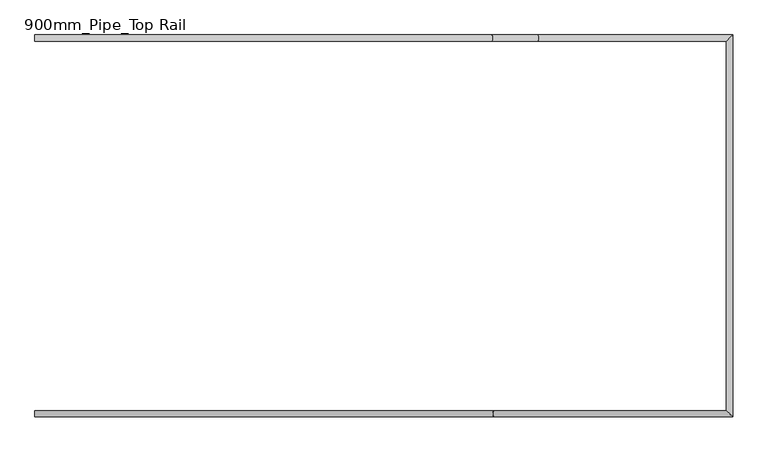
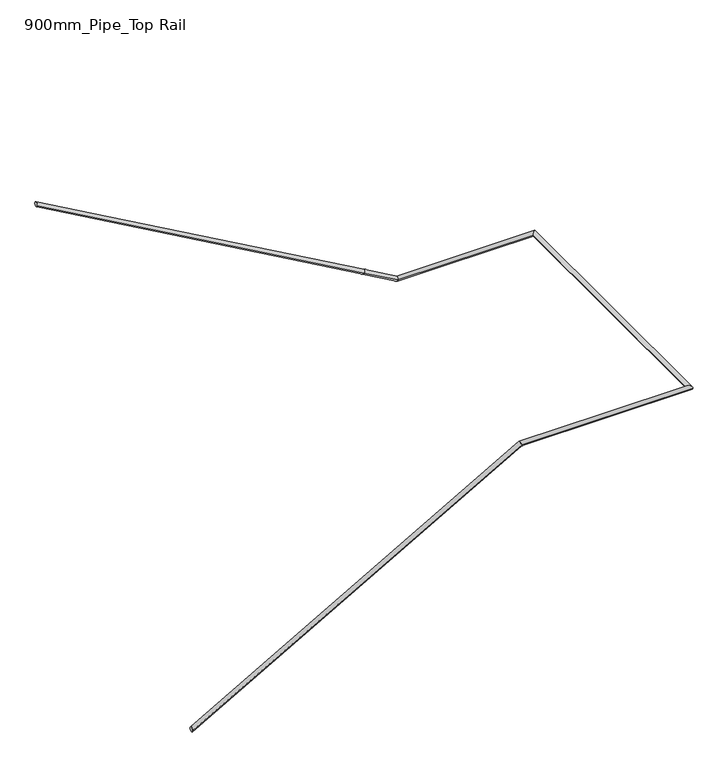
"""IFC4 building model written with IfcOpenShell, lengths in millimetres: railing geometry, 900mm_Pipe_Top Rail."""

import ifcopenshell
import ifcopenshell.guid

model = None  # the IFC model being written
_history = None  # IfcOwnerHistory: only IFC2X3 demands one
_inside = {}  # id of a spatial element -> (the spatial element, [elements in it])
_under = {}  # id of a project, library or spatial element -> (it, [spatial elements below it])
_declared = {}  # id of a project -> (the project, [libraries it declares])
_typed = {}  # id of a type object -> (the type object, [elements of that type])
_made_of = {}  # id of a material, layer set ... -> (it, [elements and type objects made of it])


def new_model(schema):
    """Start an empty IFC model of exactly this schema.

    Asked for "IFC4X3", IfcOpenShell would pick the latest addendum, in which some entities
    have other attributes; the version numbers below select the first issue.
    IFC2X3 requires an IfcOwnerHistory on every rooted entity: one is made here for all.
    """
    global model, _history
    if schema == "IFC4X3":
        model = ifcopenshell.file(schema_version=(4, 3, 0, 0))
    else:
        model = ifcopenshell.file(schema=schema)
    _inside.clear()
    _under.clear()
    _declared.clear()
    _typed.clear()
    _made_of.clear()
    _history = None
    if model.schema == "IFC2X3":
        org = make("IfcOrganization", Name="unknown")
        user = make(
            "IfcPersonAndOrganization",
            ThePerson=make("IfcPerson", FamilyName="unknown"),
            TheOrganization=org,
        )
        app = make(
            "IfcApplication",
            ApplicationDeveloper=org,
            Version="unknown",
            ApplicationFullName="unknown",
            ApplicationIdentifier="unknown",
        )
        _history = make(
            "IfcOwnerHistory",
            OwningUser=user,
            OwningApplication=app,
            ChangeAction="ADDED",
            CreationDate=0,
        )
    return model


def make(cls, **values):
    """One entity of the class cls with the attributes given. An attribute that is None is left unset."""
    return model.create_entity(
        cls, **{name: value for name, value in values.items() if value is not None}
    )


def rooted(cls, **values):
    """An entity with a GlobalId (a new one), such as an element, a storey or a relation."""
    return make(cls, GlobalId=ifcopenshell.guid.new(), OwnerHistory=_history, **values)


def si_unit(unit_type, name, prefix=None):
    """IfcSIUnit, for example si_unit("LENGTHUNIT", "METRE", prefix="MILLI")."""
    return make("IfcSIUnit", UnitType=unit_type, Prefix=prefix, Name=name)


def assignment(units):
    """IfcUnitAssignment: the units of a project."""
    return None if units is None else make("IfcUnitAssignment", Units=units)


def point(xyz):
    """IfcCartesianPoint."""
    return None if xyz is None else make("IfcCartesianPoint", Coordinates=xyz)


def direction(xyz):
    """IfcDirection."""
    return None if xyz is None else make("IfcDirection", DirectionRatios=xyz)


def frame(location, z_axis=None, x_axis=None):
    """IfcAxis2Placement3D, a coordinate frame: its origin and axes. An axis left out is left unset."""
    return make(
        "IfcAxis2Placement3D",
        Location=point(location),
        Axis=direction(z_axis),
        RefDirection=direction(x_axis),
    )


def origin():
    """The frame at (0, 0, 0) with its axes left unset."""
    return frame((0.0, 0.0, 0.0))


def place(relative_to, where):
    """IfcLocalPlacement: puts the frame where relative to a parent placement (None: the world)."""
    return make(
        "IfcLocalPlacement", PlacementRelTo=relative_to, RelativePlacement=where
    )


def context(
    kind, dimensions, precision=None, world=None, true_north=None, identifier=None
):
    """IfcGeometricRepresentationContext, for example the 3D "Model" context."""
    return make(
        "IfcGeometricRepresentationContext",
        ContextIdentifier=identifier,
        ContextType=kind,
        CoordinateSpaceDimension=dimensions,
        Precision=precision,
        WorldCoordinateSystem=world,
        TrueNorth=true_north,
    )


def project(units=None, contexts=None):
    """IfcProject with its units and contexts."""
    return rooted(
        "IfcProject",
        Name="project",
        RepresentationContexts=contexts,
        UnitsInContext=assignment(units),
    )


def spatial(cls, under=None, at=None, **own):
    """A site, building, storey or space (cls), placed at a placement, below another one or the project."""
    s = rooted(cls, ObjectPlacement=at, **own)
    if under is not None:
        _under.setdefault(under.id(), (under, []))[1].append(s)
    return s


def circle_curve(where, radius):
    """IfcCircle in the frame where."""
    return make("IfcCircle", Position=where, Radius=radius)


def ellipse_curve(where, semi_axis1, semi_axis2):
    """IfcEllipse in the frame where."""
    return make(
        "IfcEllipse", Position=where, SemiAxis1=semi_axis1, SemiAxis2=semi_axis2
    )


def shape(context_of_items, identifier, shape_type, items):
    """IfcShapeRepresentation: the items that make up one representation, for example the "Body"."""
    return make(
        "IfcShapeRepresentation",
        ContextOfItems=context_of_items,
        RepresentationIdentifier=identifier,
        RepresentationType=shape_type,
        Items=items,
    )


def source(mapping_origin, context_of_items, identifier, shape_type, items):
    """IfcRepresentationMap: a shape defined once, which mapped items show again and again."""
    return make(
        "IfcRepresentationMap",
        MappingOrigin=mapping_origin,
        MappedRepresentation=shape(context_of_items, identifier, shape_type, items),
    )


def transform(
    local_origin,
    x_axis=None,
    y_axis=None,
    z_axis=None,
    scale=None,
    scale2=None,
    scale3=None,
    uniform=True,
):
    """IfcCartesianTransformationOperator3D, or its non-uniform kind. x_axis, y_axis, z_axis: its Axis1, 2, 3."""
    if uniform:
        return make(
            "IfcCartesianTransformationOperator3D",
            Axis1=direction(x_axis),
            Axis2=direction(y_axis),
            LocalOrigin=point(local_origin),
            Scale=scale,
            Axis3=direction(z_axis),
        )
    return make(
        "IfcCartesianTransformationOperator3DnonUniform",
        Axis1=direction(x_axis),
        Axis2=direction(y_axis),
        LocalOrigin=point(local_origin),
        Scale=scale,
        Axis3=direction(z_axis),
        Scale2=scale2,
        Scale3=scale3,
    )


def mapped(mapping_source, mapping_target):
    """IfcMappedItem: shows the shape of a source again, moved by a transform."""
    return make(
        "IfcMappedItem", MappingSource=mapping_source, MappingTarget=mapping_target
    )


def made_of(thing, what):
    """Note that an element or type object is made of a material, layer set ...; save() writes the relation."""
    if what is not None:
        _made_of.setdefault(what.id(), (what, []))[1].append(thing)
    return thing


def element(
    cls,
    number,
    at=None,
    inside=None,
    cuts=None,
    type_object=None,
    material=None,
    context=None,
    identifier="Body",
    shape_type=None,
    held_by="IfcProductDefinitionShape",
    body=None,
    shapes=None,
    **own,
):
    """One element of the class cls, such as IfcWall. Its Tag is "e" and its number.

    at: its placement. inside: the storey or other place that contains it. cuts: it is an
    opening in that element (IfcRelVoidsElement). A single representation is given by context,
    identifier, shape_type and body (its items); several are given by shapes. held_by: the class
    of the entity that holds the representations. save() writes the other relations.
    """
    e = rooted(cls, Tag="e%d" % number, ObjectPlacement=at, **own)
    if body is not None:
        shapes = [shape(context, identifier, shape_type, body)]
    if shapes is not None:
        e.Representation = make(held_by, Representations=shapes)
    if inside is not None:
        _inside.setdefault(inside.id(), (inside, []))[1].append(e)
    if cuts is not None:
        rooted(
            "IfcRelVoidsElement", RelatingBuildingElement=cuts, RelatedOpeningElement=e
        )
    if type_object is not None:
        _typed.setdefault(type_object.id(), (type_object, []))[1].append(e)
    return made_of(e, material)


def aggregate(whole, parts):
    """IfcRelAggregates: a whole, such as a stair, and the parts it consists of."""
    return rooted("IfcRelAggregates", RelatingObject=whole, RelatedObjects=parts)


def save(model, path):
    """Write the relations noted so far, then the file.

    IfcRelAggregates (storeys below a building ...), IfcRelContainedInSpatialStructure (elements
    in a storey), IfcRelDefinesByType, IfcRelAssociatesMaterial and IfcRelDeclares: one each for
    every whole, place, type object, material and project.
    """
    for whole, parts in _under.values():
        aggregate(whole, parts)
    for where, things in _inside.values():
        rooted(
            "IfcRelContainedInSpatialStructure",
            RelatedElements=things,
            RelatingStructure=where,
        )
    for kind, things in _typed.values():
        rooted("IfcRelDefinesByType", RelatedObjects=things, RelatingType=kind)
    for what, things in _made_of.values():
        rooted("IfcRelAssociatesMaterial", RelatedObjects=things, RelatingMaterial=what)
    for by, libraries in _declared.values():
        rooted("IfcRelDeclares", RelatingContext=by, RelatedDefinitions=libraries)
    model.write(path)


def plane_surface(at):
    """IfcPlane: the flat surface through the origin of the frame at, square to its z axis."""
    return make("IfcPlane", Position=at)


def cylinder_surface(at, radius):
    """IfcCylindricalSurface: all points at the distance radius from the z axis of the frame at."""
    return make("IfcCylindricalSurface", Position=at, Radius=radius)


def advanced_brep(points, edges, surfaces, faces):
    """IfcAdvancedBrep: a solid bounded by faces that lie on surfaces and meet in shared edges.

    An edge is (start, end): straight between two places in points (the first is 0);
    or (start, end, curve); or (start, end, curve, False) where it runs against its curve.
    A face is (place in surfaces, loops), or (place, loops, False) where it looks against
    its surface's normal. A loop lists edges by number (the first is 1), with a minus sign
    where the edge is run from its end to its start. The first loop is the outer one.
    """
    corners = [point(p) for p in points]
    vertices = [make("IfcVertexPoint", VertexGeometry=c) for c in corners]
    made = []
    for start, end, *more in edges:
        made.append(
            make(
                "IfcEdgeCurve",
                EdgeStart=vertices[start],
                EdgeEnd=vertices[end],
                EdgeGeometry=more[0] if more else make("IfcPolyline", Points=[corners[start], corners[end]]),
                SameSense=more[1] if len(more) > 1 else True,
            )
        )
    hull = []
    for where, loops, *sense in faces:
        bounds = []
        for j, loop in enumerate(loops):
            ring = [make("IfcOrientedEdge", EdgeElement=made[abs(k) - 1], Orientation=k > 0) for k in loop]
            bounds.append(
                make(
                    "IfcFaceOuterBound" if j == 0 else "IfcFaceBound",
                    Bound=make("IfcEdgeLoop", EdgeList=ring),
                    Orientation=True,
                )
            )
        hull.append(make("IfcAdvancedFace", Bounds=bounds, FaceSurface=surfaces[where], SameSense=sense[0] if sense else True))
    return make("IfcAdvancedBrep", Outer=make("IfcClosedShell", CfsFaces=hull))


def railing_900mm_pipe_top_rail_28c3baa7(model_context):
    return source(origin(), model_context, "Body", "AdvancedBrep", [
        advanced_brep(
        [(-801.4958562, -4563.9473686, 12307.451671), (-801.4958562, -4523.9473686, 12307.451671), (2203.7892028, -4563.9473686, 14015.0), (2203.7892028, -4523.9473686, 14015.0), (3768.1041438, -4563.9473686, 14015.0), (3728.1041438, -4523.9473686, 14015.0), (3768.1041438, -2065.2316761, 14015.0), (3728.1041438, -2105.2316761, 14015.0), (2493.2190848, -2065.2316761, 14015.0), (2493.2190848, -2105.2316761, 14015.0), (2188.6239556, -2065.2316761, 14188.0654143), (2188.6239556, -2105.2316761, 14188.0654143), (-801.4958562, -2065.2316761, 15886.9971256), (-801.4958562, -2105.2316761, 15886.9971256)],
        [
            (0, 1, ellipse_curve(frame((-801.4958562, -4543.9473686, 12307.451671), z_axis=(-1.0, 0.0, 0.0), x_axis=(0.0, 0.0, -1.0)), 23.0028744, 20.0)),
            (1, 0, ellipse_curve(frame((-801.4958562, -4543.9473686, 12307.451671), z_axis=(-1.0, 0.0, 0.0), x_axis=(0.0, 0.0, -1.0)), 23.0028744, 20.0)),
            (0, 2),
            (2, 3, ellipse_curve(frame((2203.7892028, -4543.9473686, 14015.0), z_axis=(-0.9668134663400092, 0.0, -0.25548330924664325), x_axis=(0.2554833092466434, 0.0, -0.9668134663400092)), 20.6865137, 20.0)),
            (3, 1),
            (3, 2, ellipse_curve(frame((2203.7892028, -4543.9473686, 14015.0), z_axis=(-0.9668134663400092, 0.0, -0.25548330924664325), x_axis=(0.2554833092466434, 0.0, -0.9668134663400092)), 20.6865137, 20.0)),
            (2, 4),
            (4, 5, ellipse_curve(frame((3748.1041438, -4543.9473686, 14015.0), z_axis=(-0.7071067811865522, -0.7071067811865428, 0.0), x_axis=(-0.7071067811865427, 0.7071067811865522, 0.0)), 28.2842712, 20.0)),
            (5, 3),
            (5, 4, ellipse_curve(frame((3748.1041438, -4543.9473686, 14015.0), z_axis=(-0.7071067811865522, -0.7071067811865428, 0.0), x_axis=(-0.7071067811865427, 0.7071067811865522, 0.0)), 28.2842712, 20.0)),
            (4, 6),
            (6, 7, ellipse_curve(frame((3748.1041438, -2085.2316761, 14015.0), z_axis=(0.7071067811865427, -0.7071067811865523, 0.0), x_axis=(-0.7071067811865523, -0.7071067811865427, 0.0)), 28.2842712, 20.0)),
            (7, 5),
            (7, 6, ellipse_curve(frame((3748.1041438, -2085.2316761, 14015.0), z_axis=(0.7071067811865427, -0.7071067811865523, 0.0), x_axis=(-0.7071067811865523, -0.7071067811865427, 0.0)), 28.2842712, 20.0)),
            (6, 8),
            (8, 9, ellipse_curve(frame((2493.2190848, -2085.2316761, 14015.0), z_axis=(0.9668134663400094, 0.0, -0.25548330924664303), x_axis=(0.2554833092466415, 0.0, 0.9668134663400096)), 20.6865137, 20.0)),
            (9, 7),
            (9, 8, ellipse_curve(frame((2493.2190848, -2085.2316761, 14015.0), z_axis=(0.9668134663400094, 0.0, -0.25548330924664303), x_axis=(0.2554833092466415, 0.0, 0.9668134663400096)), 20.6865137, 20.0)),
            (8, 10),
            (10, 11, circle_curve(frame((2188.6239556, -2085.2316761, 14188.0654143), z_axis=(0.8694565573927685, 0.0, -0.4940094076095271), x_axis=(0.0, -1.0, 0.0)), 20.0)),
            (11, 9),
            (11, 10, circle_curve(frame((2188.6239556, -2085.2316761, 14188.0654143), z_axis=(0.8694565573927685, 0.0, -0.4940094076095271), x_axis=(0.0, -1.0, 0.0)), 20.0)),
            (12, 13, ellipse_curve(frame((-801.4958562, -2085.2316761, 15886.9971256), z_axis=(-1.0, 0.0, 0.0), x_axis=(0.0, 0.0, -1.0)), 23.0028744, 20.0)),
            (13, 12, ellipse_curve(frame((-801.4958562, -2085.2316761, 15886.9971256), z_axis=(-1.0, 0.0, 0.0), x_axis=(0.0, 0.0, -1.0)), 23.0028744, 20.0)),
            (10, 12),
            (13, 11),
        ],
        [
            plane_surface(frame((-801.4958562, -4543.9473686, 12330.4545455), z_axis=(-1.0, 0.0, 0.0), x_axis=(0.0, 1.0, 0.0))),
            cylinder_surface(frame((-791.6156681, -4543.9473686, 12313.0654143), z_axis=(-0.8694565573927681, 0.0, -0.4940094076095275), x_axis=(0.0, 1.0, 0.0)), 20.0),
            cylinder_surface(frame((2198.5041438, -4543.9473686, 14015.0), z_axis=(-1.0, 0.0, 0.0), x_axis=(0.0, 1.0, 0.0)), 20.0),
            cylinder_surface(frame((3748.1041438, -4543.9473686, 14015.0), z_axis=(0.0, -1.0, 0.0), x_axis=(-1.0, 0.0, 0.0)), 20.0),
            cylinder_surface(frame((3748.1041438, -2085.2316761, 14015.0), z_axis=(1.0, 0.0, 0.0), x_axis=(0.0, -1.0, 0.0)), 20.0),
            cylinder_surface(frame((2488.6239556, -2085.2316761, 14017.6108689), z_axis=(0.8694565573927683, 0.0, -0.494009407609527), x_axis=(0.0, -1.0, 0.0)), 20.0),
            plane_surface(frame((-801.4958562, -2085.2316761, 15910.0), z_axis=(-1.0, 0.0, 0.0), x_axis=(0.0, -1.0, 0.0))),
            cylinder_surface(frame((2188.6239556, -2085.2316761, 14188.0654143), z_axis=(0.8694565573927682, 0.0, -0.4940094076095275), x_axis=(0.0, -1.0, 0.0)), 20.0),
        ],
        [
            (0, [[1, 2]]),
            (1, [[-1, 3, 4, 5]]),
            (1, [[-2, -5, 6, -3]]),
            (2, [[-4, 7, 8, 9]]),
            (2, [[-6, -9, 10, -7]]),
            (3, [[-8, 11, 12, 13]]),
            (3, [[-10, -13, 14, -11]]),
            (4, [[-12, 15, 16, 17]]),
            (4, [[-14, -17, 18, -15]]),
            (5, [[-16, 19, 20, 21]]),
            (5, [[-18, -21, 22, -19]]),
            (6, [[23, 24]]),
            (7, [[-20, 25, -24, 26]]),
            (7, [[-22, -26, -23, -25]]),
        ],
    ),
    ])


if __name__ == "__main__":
    model = new_model("IFC4")
    model_context = context("Model", 3, world=origin())
    ifc_project = project(units=[si_unit("LENGTHUNIT", "METRE", prefix="MILLI")], contexts=[model_context])
    site = spatial("IfcSite", under=ifc_project)
    building = spatial("IfcBuilding", under=site)
    placement = place(None, origin())
    railing_900mm_pipe_top_rail_shape = railing_900mm_pipe_top_rail_28c3baa7(model_context)
    element("IfcRailing", 1, ObjectType="900mm_Pipe_Top Rail", at=placement, inside=building, context=model_context, shape_type="MappedRepresentation", body=[
        mapped(railing_900mm_pipe_top_rail_shape, transform((0.0, 0.0, 0.0), x_axis=(1.0, 0.0, 0.0), y_axis=(0.0, 1.0, 0.0), z_axis=(0.0, 0.0, 1.0))),
    ])
    save(model, "model.ifc")
